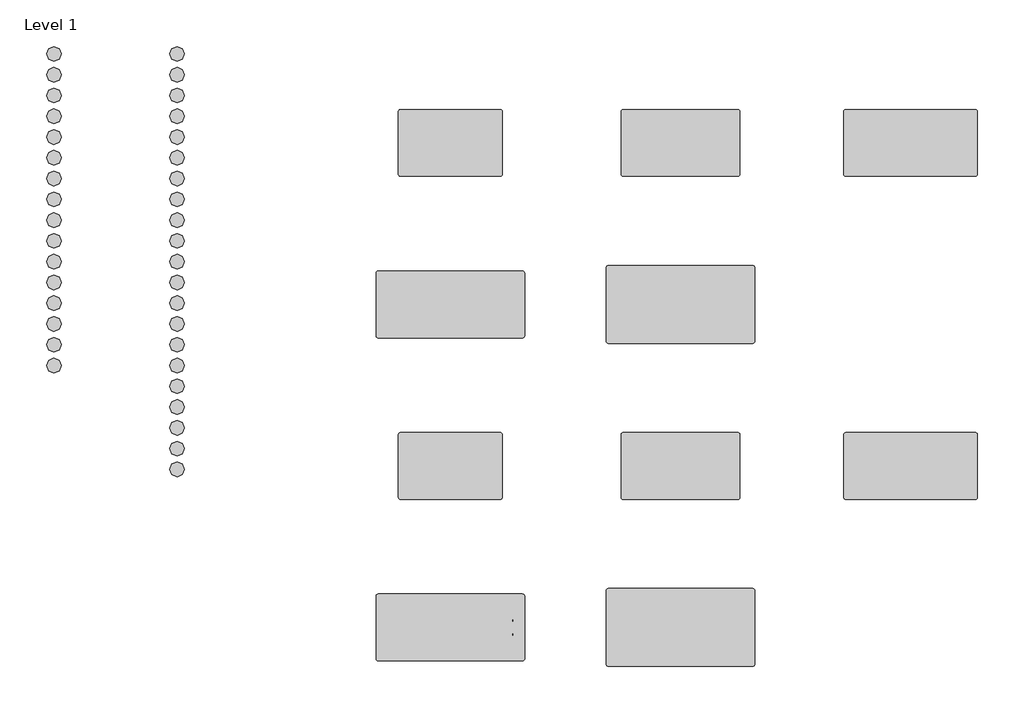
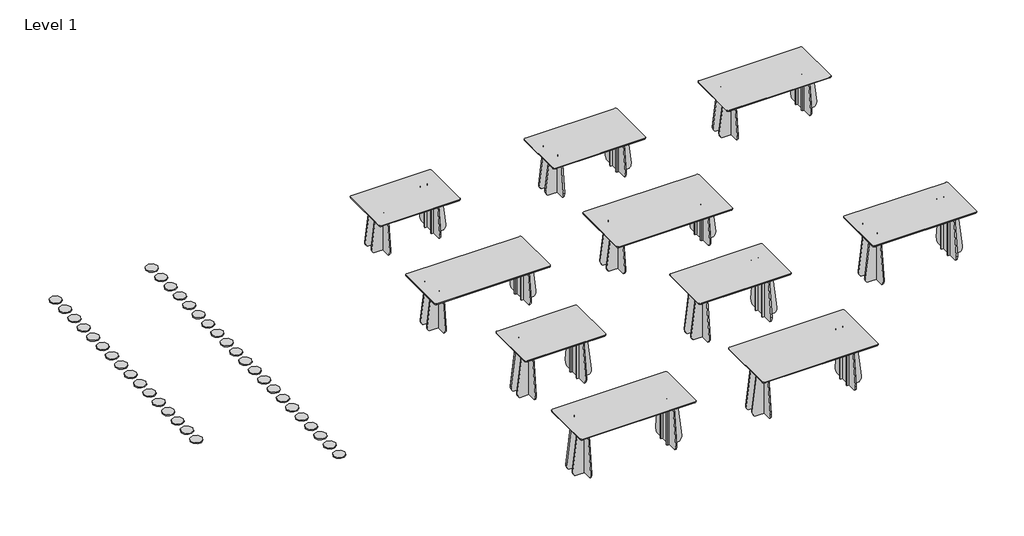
# One storey: 37 proxies, 10 furniture elements.
"""IFC4 building model written with IfcOpenShell, lengths in millimetres."""

from ifc_helpers import new_model, si_unit, origin, place, context, project, spatial, transform, mapped, element, save
from components import materialmodel_materialmodel_33d36961, furniture_efe6b180, furniture_2b31757b, furniture_1b0d5a34, furniture_52ca518f, furniture_8b29e370, furniture_014bb074, furniture_4cfedfe6, furniture_1f910224, furniture_44cc76ec, furniture_3231cc4d

model = new_model("IFC4")

# Units and contexts
model_context = context("Model", 3, world=origin())
ifc_project = project(units=[si_unit("LENGTHUNIT", "METRE", prefix="MILLI")], contexts=[model_context])

# Site, building, storey
site = spatial("IfcSite", under=ifc_project)
building = spatial("IfcBuilding", under=site)
storey = spatial("IfcBuildingStorey", under=building, Name="Level 1", Elevation=0.0)

# Proxies
placement = place(None, origin())
materialmodel_materialmodel_shape = materialmodel_materialmodel_33d36961(model_context)
element("IfcBuildingElementProxy", 1, Name="MaterialModel : MaterialModel", ObjectType="MaterialModel : MaterialModel", at=placement, inside=storey, context=model_context, shape_type="MappedRepresentation", body=[
    mapped(materialmodel_materialmodel_shape, transform((3174.8825232, 5959.7864083, 0.0), x_axis=(1.0, 0.0, 0.0), y_axis=(0.0, 1.0, 0.0), z_axis=(0.0, 0.0, 1.0))),
])
element("IfcBuildingElementProxy", 2, Name="MaterialModel : MaterialModel", ObjectType="MaterialModel : MaterialModel", at=placement, inside=storey, context=model_context, shape_type="MappedRepresentation", body=[
    mapped(materialmodel_materialmodel_shape, transform((3174.8825232, 5679.7864083, 0.0), x_axis=(1.0, 0.0, 0.0), y_axis=(0.0, 1.0, 0.0), z_axis=(0.0, 0.0, 1.0))),
])
element("IfcBuildingElementProxy", 3, Name="MaterialModel : MaterialModel", ObjectType="MaterialModel : MaterialModel", at=placement, inside=storey, context=model_context, shape_type="MappedRepresentation", body=[
    mapped(materialmodel_materialmodel_shape, transform((3174.8825232, 5399.7864083, 0.0), x_axis=(1.0, 0.0, 0.0), y_axis=(0.0, 1.0, 0.0), z_axis=(0.0, 0.0, 1.0))),
])
element("IfcBuildingElementProxy", 4, Name="MaterialModel : MaterialModel", ObjectType="MaterialModel : MaterialModel", at=placement, inside=storey, context=model_context, shape_type="MappedRepresentation", body=[
    mapped(materialmodel_materialmodel_shape, transform((4832.6075509, 5959.7864083, 0.0), x_axis=(1.0, 0.0, 0.0), y_axis=(0.0, 1.0, 0.0), z_axis=(0.0, 0.0, 1.0))),
])
element("IfcBuildingElementProxy", 5, Name="MaterialModel : MaterialModel", ObjectType="MaterialModel : MaterialModel", at=placement, inside=storey, context=model_context, shape_type="MappedRepresentation", body=[
    mapped(materialmodel_materialmodel_shape, transform((4832.6075509, 5679.7864083, 0.0), x_axis=(1.0, 0.0, 0.0), y_axis=(0.0, 1.0, 0.0), z_axis=(0.0, 0.0, 1.0))),
])
element("IfcBuildingElementProxy", 6, Name="MaterialModel : MaterialModel", ObjectType="MaterialModel : MaterialModel", at=placement, inside=storey, context=model_context, shape_type="MappedRepresentation", body=[
    mapped(materialmodel_materialmodel_shape, transform((4832.6075509, 5399.7864083, 0.0), x_axis=(1.0, 0.0, 0.0), y_axis=(0.0, 1.0, 0.0), z_axis=(0.0, 0.0, 1.0))),
])
element("IfcBuildingElementProxy", 7, Name="MaterialModel : MaterialModel", ObjectType="MaterialModel : MaterialModel", at=placement, inside=storey, context=model_context, shape_type="MappedRepresentation", body=[
    mapped(materialmodel_materialmodel_shape, transform((4832.6075509, 5119.7864083, 0.0), x_axis=(1.0, 0.0, 0.0), y_axis=(0.0, 1.0, 0.0), z_axis=(0.0, 0.0, 1.0))),
])
element("IfcBuildingElementProxy", 8, Name="MaterialModel : MaterialModel", ObjectType="MaterialModel : MaterialModel", at=placement, inside=storey, context=model_context, shape_type="MappedRepresentation", body=[
    mapped(materialmodel_materialmodel_shape, transform((4832.6075509, 4839.7864083, 0.0), x_axis=(1.0, 0.0, 0.0), y_axis=(0.0, 1.0, 0.0), z_axis=(0.0, 0.0, 1.0))),
])
element("IfcBuildingElementProxy", 9, Name="MaterialModel : MaterialModel", ObjectType="MaterialModel : MaterialModel", at=placement, inside=storey, context=model_context, shape_type="MappedRepresentation", body=[
    mapped(materialmodel_materialmodel_shape, transform((4832.6075509, 4559.7864083, 0.0), x_axis=(1.0, 0.0, 0.0), y_axis=(0.0, 1.0, 0.0), z_axis=(0.0, 0.0, 1.0))),
])
element("IfcBuildingElementProxy", 10, Name="MaterialModel : MaterialModel", ObjectType="MaterialModel : MaterialModel", at=placement, inside=storey, context=model_context, shape_type="MappedRepresentation", body=[
    mapped(materialmodel_materialmodel_shape, transform((4832.6075509, 4279.7864083, 0.0), x_axis=(1.0, 0.0, 0.0), y_axis=(0.0, 1.0, 0.0), z_axis=(0.0, 0.0, 1.0))),
])
element("IfcBuildingElementProxy", 11, Name="MaterialModel : MaterialModel", ObjectType="MaterialModel : MaterialModel", at=placement, inside=storey, context=model_context, shape_type="MappedRepresentation", body=[
    mapped(materialmodel_materialmodel_shape, transform((4832.6075509, 3999.7864083, 0.0), x_axis=(1.0, 0.0, 0.0), y_axis=(0.0, 1.0, 0.0), z_axis=(0.0, 0.0, 1.0))),
])
element("IfcBuildingElementProxy", 12, Name="MaterialModel : MaterialModel", ObjectType="MaterialModel : MaterialModel", at=placement, inside=storey, context=model_context, shape_type="MappedRepresentation", body=[
    mapped(materialmodel_materialmodel_shape, transform((4832.6075509, 3719.7864083, 0.0), x_axis=(1.0, 0.0, 0.0), y_axis=(0.0, 1.0, 0.0), z_axis=(0.0, 0.0, 1.0))),
])
element("IfcBuildingElementProxy", 13, Name="MaterialModel : MaterialModel", ObjectType="MaterialModel : MaterialModel", at=placement, inside=storey, context=model_context, shape_type="MappedRepresentation", body=[
    mapped(materialmodel_materialmodel_shape, transform((4832.6075509, 3439.7864083, 0.0), x_axis=(1.0, 0.0, 0.0), y_axis=(0.0, 1.0, 0.0), z_axis=(0.0, 0.0, 1.0))),
])
element("IfcBuildingElementProxy", 14, Name="MaterialModel : MaterialModel", ObjectType="MaterialModel : MaterialModel", at=placement, inside=storey, context=model_context, shape_type="MappedRepresentation", body=[
    mapped(materialmodel_materialmodel_shape, transform((4832.6075509, 3159.7864083, 0.0), x_axis=(1.0, 0.0, 0.0), y_axis=(0.0, 1.0, 0.0), z_axis=(0.0, 0.0, 1.0))),
])
element("IfcBuildingElementProxy", 15, Name="MaterialModel : MaterialModel", ObjectType="MaterialModel : MaterialModel", at=placement, inside=storey, context=model_context, shape_type="MappedRepresentation", body=[
    mapped(materialmodel_materialmodel_shape, transform((4832.6075509, 2879.7864083, 0.0), x_axis=(1.0, 0.0, 0.0), y_axis=(0.0, 1.0, 0.0), z_axis=(0.0, 0.0, 1.0))),
])
element("IfcBuildingElementProxy", 16, Name="MaterialModel : MaterialModel", ObjectType="MaterialModel : MaterialModel", at=placement, inside=storey, context=model_context, shape_type="MappedRepresentation", body=[
    mapped(materialmodel_materialmodel_shape, transform((4832.6075509, 2599.7864083, 0.0), x_axis=(1.0, 0.0, 0.0), y_axis=(0.0, 1.0, 0.0), z_axis=(0.0, 0.0, 1.0))),
])
element("IfcBuildingElementProxy", 17, Name="MaterialModel : MaterialModel", ObjectType="MaterialModel : MaterialModel", at=placement, inside=storey, context=model_context, shape_type="MappedRepresentation", body=[
    mapped(materialmodel_materialmodel_shape, transform((4832.6075509, 2319.7864083, 0.0), x_axis=(1.0, 0.0, 0.0), y_axis=(0.0, 1.0, 0.0), z_axis=(0.0, 0.0, 1.0))),
])
element("IfcBuildingElementProxy", 18, Name="MaterialModel : MaterialModel", ObjectType="MaterialModel : MaterialModel", at=placement, inside=storey, context=model_context, shape_type="MappedRepresentation", body=[
    mapped(materialmodel_materialmodel_shape, transform((4832.6075509, 2039.7864083, 0.0), x_axis=(1.0, 0.0, 0.0), y_axis=(0.0, 1.0, 0.0), z_axis=(0.0, 0.0, 1.0))),
])
element("IfcBuildingElementProxy", 19, Name="MaterialModel : MaterialModel", ObjectType="MaterialModel : MaterialModel", at=placement, inside=storey, context=model_context, shape_type="MappedRepresentation", body=[
    mapped(materialmodel_materialmodel_shape, transform((4832.6075509, 1759.7864083, 0.0), x_axis=(1.0, 0.0, 0.0), y_axis=(0.0, 1.0, 0.0), z_axis=(0.0, 0.0, 1.0))),
])
element("IfcBuildingElementProxy", 20, Name="MaterialModel : MaterialModel", ObjectType="MaterialModel : MaterialModel", at=placement, inside=storey, context=model_context, shape_type="MappedRepresentation", body=[
    mapped(materialmodel_materialmodel_shape, transform((4832.6075509, 1479.7864083, 0.0), x_axis=(1.0, 0.0, 0.0), y_axis=(0.0, 1.0, 0.0), z_axis=(0.0, 0.0, 1.0))),
])
element("IfcBuildingElementProxy", 21, Name="MaterialModel : MaterialModel", ObjectType="MaterialModel : MaterialModel", at=placement, inside=storey, context=model_context, shape_type="MappedRepresentation", body=[
    mapped(materialmodel_materialmodel_shape, transform((4832.6075509, 1199.7864083, 0.0), x_axis=(1.0, 0.0, 0.0), y_axis=(0.0, 1.0, 0.0), z_axis=(0.0, 0.0, 1.0))),
])
element("IfcBuildingElementProxy", 22, Name="MaterialModel : MaterialModel", ObjectType="MaterialModel : MaterialModel", at=placement, inside=storey, context=model_context, shape_type="MappedRepresentation", body=[
    mapped(materialmodel_materialmodel_shape, transform((4832.6075509, 919.7864083, 0.0), x_axis=(1.0, 0.0, 0.0), y_axis=(0.0, 1.0, 0.0), z_axis=(0.0, 0.0, 1.0))),
])
element("IfcBuildingElementProxy", 23, Name="MaterialModel : MaterialModel", ObjectType="MaterialModel : MaterialModel", at=placement, inside=storey, context=model_context, shape_type="MappedRepresentation", body=[
    mapped(materialmodel_materialmodel_shape, transform((4832.6075509, 639.7864083, 0.0), x_axis=(1.0, 0.0, 0.0), y_axis=(0.0, 1.0, 0.0), z_axis=(0.0, 0.0, 1.0))),
])
element("IfcBuildingElementProxy", 24, Name="MaterialModel : MaterialModel", ObjectType="MaterialModel : MaterialModel", at=placement, inside=storey, context=model_context, shape_type="MappedRepresentation", body=[
    mapped(materialmodel_materialmodel_shape, transform((4832.6075509, 359.7864083, 0.0), x_axis=(1.0, 0.0, 0.0), y_axis=(0.0, 1.0, 0.0), z_axis=(0.0, 0.0, 1.0))),
])
element("IfcBuildingElementProxy", 25, Name="MaterialModel : MaterialModel", ObjectType="MaterialModel : MaterialModel", at=placement, inside=storey, context=model_context, shape_type="MappedRepresentation", body=[
    mapped(materialmodel_materialmodel_shape, transform((3174.8825232, 5119.7864083, 0.0), x_axis=(1.0, 0.0, 0.0), y_axis=(0.0, 1.0, 0.0), z_axis=(0.0, 0.0, 1.0))),
])
element("IfcBuildingElementProxy", 26, Name="MaterialModel : MaterialModel", ObjectType="MaterialModel : MaterialModel", at=placement, inside=storey, context=model_context, shape_type="MappedRepresentation", body=[
    mapped(materialmodel_materialmodel_shape, transform((3174.8825232, 4839.7864083, 0.0), x_axis=(1.0, 0.0, 0.0), y_axis=(0.0, 1.0, 0.0), z_axis=(0.0, 0.0, 1.0))),
])
element("IfcBuildingElementProxy", 27, Name="MaterialModel : MaterialModel", ObjectType="MaterialModel : MaterialModel", at=placement, inside=storey, context=model_context, shape_type="MappedRepresentation", body=[
    mapped(materialmodel_materialmodel_shape, transform((3174.8825232, 4559.7864083, 0.0), x_axis=(1.0, 0.0, 0.0), y_axis=(0.0, 1.0, 0.0), z_axis=(0.0, 0.0, 1.0))),
])
element("IfcBuildingElementProxy", 28, Name="MaterialModel : MaterialModel", ObjectType="MaterialModel : MaterialModel", at=placement, inside=storey, context=model_context, shape_type="MappedRepresentation", body=[
    mapped(materialmodel_materialmodel_shape, transform((3174.8825232, 4279.7864083, 0.0), x_axis=(1.0, 0.0, 0.0), y_axis=(0.0, 1.0, 0.0), z_axis=(0.0, 0.0, 1.0))),
])
element("IfcBuildingElementProxy", 29, Name="MaterialModel : MaterialModel", ObjectType="MaterialModel : MaterialModel", at=placement, inside=storey, context=model_context, shape_type="MappedRepresentation", body=[
    mapped(materialmodel_materialmodel_shape, transform((3174.8825232, 3999.7864083, 0.0), x_axis=(1.0, 0.0, 0.0), y_axis=(0.0, 1.0, 0.0), z_axis=(0.0, 0.0, 1.0))),
])
element("IfcBuildingElementProxy", 30, Name="MaterialModel : MaterialModel", ObjectType="MaterialModel : MaterialModel", at=placement, inside=storey, context=model_context, shape_type="MappedRepresentation", body=[
    mapped(materialmodel_materialmodel_shape, transform((3174.8825232, 3719.7864083, 0.0), x_axis=(1.0, 0.0, 0.0), y_axis=(0.0, 1.0, 0.0), z_axis=(0.0, 0.0, 1.0))),
])
element("IfcBuildingElementProxy", 31, Name="MaterialModel : MaterialModel", ObjectType="MaterialModel : MaterialModel", at=placement, inside=storey, context=model_context, shape_type="MappedRepresentation", body=[
    mapped(materialmodel_materialmodel_shape, transform((3174.8825232, 3439.7864083, 0.0), x_axis=(1.0, 0.0, 0.0), y_axis=(0.0, 1.0, 0.0), z_axis=(0.0, 0.0, 1.0))),
])
element("IfcBuildingElementProxy", 32, Name="MaterialModel : MaterialModel", ObjectType="MaterialModel : MaterialModel", at=placement, inside=storey, context=model_context, shape_type="MappedRepresentation", body=[
    mapped(materialmodel_materialmodel_shape, transform((3174.8825232, 3159.7864083, 0.0), x_axis=(1.0, 0.0, 0.0), y_axis=(0.0, 1.0, 0.0), z_axis=(0.0, 0.0, 1.0))),
])
element("IfcBuildingElementProxy", 33, Name="MaterialModel : MaterialModel", ObjectType="MaterialModel : MaterialModel", at=placement, inside=storey, context=model_context, shape_type="MappedRepresentation", body=[
    mapped(materialmodel_materialmodel_shape, transform((3174.8825232, 2879.7864083, 0.0), x_axis=(1.0, 0.0, 0.0), y_axis=(0.0, 1.0, 0.0), z_axis=(0.0, 0.0, 1.0))),
])
element("IfcBuildingElementProxy", 34, Name="MaterialModel : MaterialModel", ObjectType="MaterialModel : MaterialModel", at=placement, inside=storey, context=model_context, shape_type="MappedRepresentation", body=[
    mapped(materialmodel_materialmodel_shape, transform((3174.8825232, 2599.7864083, 0.0), x_axis=(1.0, 0.0, 0.0), y_axis=(0.0, 1.0, 0.0), z_axis=(0.0, 0.0, 1.0))),
])
element("IfcBuildingElementProxy", 35, Name="MaterialModel : MaterialModel", ObjectType="MaterialModel : MaterialModel", at=placement, inside=storey, context=model_context, shape_type="MappedRepresentation", body=[
    mapped(materialmodel_materialmodel_shape, transform((3174.8825232, 2319.7864083, 0.0), x_axis=(1.0, 0.0, 0.0), y_axis=(0.0, 1.0, 0.0), z_axis=(0.0, 0.0, 1.0))),
])
element("IfcBuildingElementProxy", 36, Name="MaterialModel : MaterialModel", ObjectType="MaterialModel : MaterialModel", at=placement, inside=storey, context=model_context, shape_type="MappedRepresentation", body=[
    mapped(materialmodel_materialmodel_shape, transform((3174.8825232, 2039.7864083, 0.0), x_axis=(1.0, 0.0, 0.0), y_axis=(0.0, 1.0, 0.0), z_axis=(0.0, 0.0, 1.0))),
])
element("IfcBuildingElementProxy", 37, Name="MaterialModel : MaterialModel", ObjectType="MaterialModel : MaterialModel", at=placement, inside=storey, context=model_context, shape_type="MappedRepresentation", body=[
    mapped(materialmodel_materialmodel_shape, transform((3174.8825232, 1759.7864083, 0.0), x_axis=(1.0, 0.0, 0.0), y_axis=(0.0, 1.0, 0.0), z_axis=(0.0, 0.0, 1.0))),
])

# Furniture
furniture_shape = furniture_efe6b180(model_context)
element("IfcFurniture", 38, ObjectType="Lundbergs Möbler - Funghi Largo - Table - Rectangular - 180x90 - H90 : Lundbergs Möbler - Funghi Largo - Table - Rectangular - 180x90 - H90", at=placement, inside=storey, context=model_context, shape_type="MappedRepresentation", body=[
    mapped(furniture_shape, transform((14713.8807283, 406.2028104, 0.0), x_axis=(1.0, 0.0, 0.0), y_axis=(0.0, 1.0, 0.0), z_axis=(0.0, 0.0, 1.0))),
])
furniture_2_shape = furniture_2b31757b(model_context)
element("IfcFurniture", 39, ObjectType="Lundbergs Möbler - Funghi Largo - Table - Rectangular - 160x90 - H90 : Lundbergs Möbler - Funghi Largo - Table - Rectangular - 160x90 - H90", at=placement, inside=storey, context=model_context, shape_type="MappedRepresentation", body=[
    mapped(furniture_2_shape, transform((11613.8807283, 406.2028104, 0.0), x_axis=(1.0, 0.0, 0.0), y_axis=(0.0, 1.0, 0.0), z_axis=(0.0, 0.0, 1.0))),
])
furniture_3_shape = furniture_1b0d5a34(model_context)
element("IfcFurniture", 40, ObjectType="Lundbergs Möbler - Funghi Largo - Table - Rectangular - 140x90 - H90 : Lundbergs Möbler - Funghi Largo - Table - Rectangular - 140x90 - H90", at=placement, inside=storey, context=model_context, shape_type="MappedRepresentation", body=[
    mapped(furniture_3_shape, transform((8513.8807283, 406.2028104, 0.0), x_axis=(1.0, 0.0, 0.0), y_axis=(0.0, 1.0, 0.0), z_axis=(0.0, 0.0, 1.0))),
])
furniture_4_shape = furniture_52ca518f(model_context)
element("IfcFurniture", 41, ObjectType="Lundbergs Möbler - Funghi Largo - Table - Rectangular - 200x105 - H73 : Lundbergs Möbler - Funghi Largo - Table - Rectangular - 200x105 - H73", at=placement, inside=storey, context=model_context, shape_type="MappedRepresentation", body=[
    mapped(furniture_4_shape, transform((11613.8807283, 2583.2721294, 0.0), x_axis=(1.0, 0.0, 0.0), y_axis=(0.0, 1.0, 0.0), z_axis=(0.0, 0.0, 1.0))),
])
furniture_5_shape = furniture_8b29e370(model_context)
element("IfcFurniture", 42, ObjectType="Lundbergs Möbler - Funghi Largo - Table - Rectangular - 200x90 - H73 : Lundbergs Möbler - Funghi Largo - Table - Rectangular - 200x90 - H73", at=placement, inside=storey, context=model_context, shape_type="MappedRepresentation", body=[
    mapped(furniture_5_shape, transform((8513.8807283, 2583.2721294, 0.0), x_axis=(1.0, 0.0, 0.0), y_axis=(0.0, 1.0, 0.0), z_axis=(0.0, 0.0, 1.0))),
])
furniture_6_shape = furniture_014bb074(model_context)
element("IfcFurniture", 43, ObjectType="Lundbergs Möbler - Funghi Largo - Table - Rectangular - 160x90 - H73 : Lundbergs Möbler - Funghi Largo - Table - Rectangular - 160x90 - H73", at=placement, inside=storey, context=model_context, shape_type="MappedRepresentation", body=[
    mapped(furniture_6_shape, transform((11613.8807283, 4760.3414483, 0.0), x_axis=(1.0, 0.0, 0.0), y_axis=(0.0, 1.0, 0.0), z_axis=(0.0, 0.0, 1.0))),
])
furniture_7_shape = furniture_4cfedfe6(model_context)
element("IfcFurniture", 44, ObjectType="Lundbergs Möbler - Funghi Largo - Table - Rectangular - 140x90 - H73 : Lundbergs Möbler - Funghi Largo - Table - Rectangular - 140x90 - H73", at=placement, inside=storey, context=model_context, shape_type="MappedRepresentation", body=[
    mapped(furniture_7_shape, transform((8513.8807283, 4760.3414483, 0.0), x_axis=(1.0, 0.0, 0.0), y_axis=(0.0, 1.0, 0.0), z_axis=(0.0, 0.0, 1.0))),
])
furniture_8_shape = furniture_1f910224(model_context)
element("IfcFurniture", 45, ObjectType="Lundbergs Möbler - Funghi Largo - Table - Rectangular - 180x90 - H73 : Lundbergs Möbler - Funghi Largo - Table - Rectangular - 180x90 - H73", at=placement, inside=storey, context=model_context, shape_type="MappedRepresentation", body=[
    mapped(furniture_8_shape, transform((14713.8807283, 4760.3414483, 0.0), x_axis=(1.0, 0.0, 0.0), y_axis=(0.0, 1.0, 0.0), z_axis=(0.0, 0.0, 1.0))),
])
furniture_9_shape = furniture_44cc76ec(model_context)
element("IfcFurniture", 46, ObjectType="Lundbergs Möbler - Funghi Largo - Table - Rectangular - 200x105 - H90 : Lundbergs Möbler - Funghi Largo - Table - Rectangular - 200x105 - H90", at=placement, inside=storey, context=model_context, shape_type="MappedRepresentation", body=[
    mapped(furniture_9_shape, transform((11613.8807283, -1770.8665085, 0.0), x_axis=(1.0, 0.0, 0.0), y_axis=(0.0, 1.0, 0.0), z_axis=(0.0, 0.0, 1.0))),
])
furniture_10_shape = furniture_3231cc4d(model_context)
element("IfcFurniture", 47, ObjectType="Lundbergs Möbler - Funghi Largo - Table - Rectangular - 200x90 - H90 : Lundbergs Möbler - Funghi Largo - Table - Rectangular - 200x90 - H90", at=placement, inside=storey, context=model_context, shape_type="MappedRepresentation", body=[
    mapped(furniture_10_shape, transform((8513.8807283, -1770.8665085, 0.0), x_axis=(1.0, 0.0, 0.0), y_axis=(0.0, 1.0, 0.0), z_axis=(0.0, 0.0, 1.0))),
])

save(model, "model.ifc")
